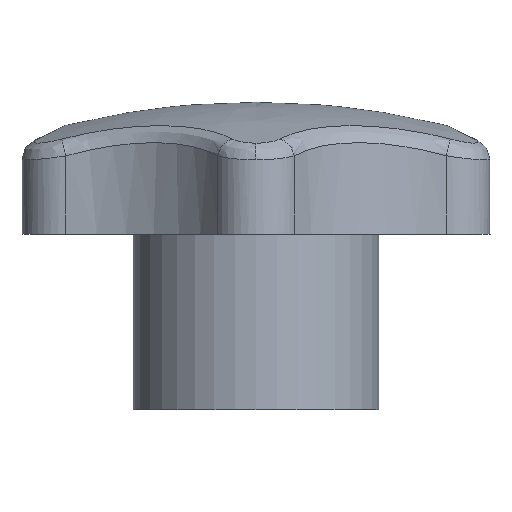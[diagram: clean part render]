
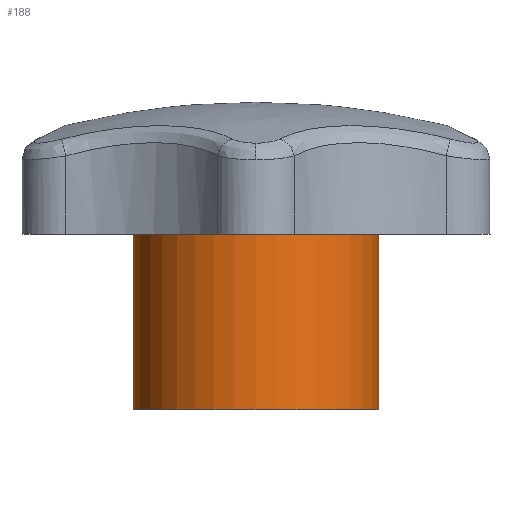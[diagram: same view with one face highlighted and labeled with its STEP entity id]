
A CAD part, left-side view. The second image highlights one B-rep face of the part: STEP entity #188.
In plain terms, the highlighted cylindrical face has radius 14 mm (diameter 28 mm), a full revolution.
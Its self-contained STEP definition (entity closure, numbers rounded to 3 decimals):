
#152=CARTESIAN_POINT('',(-14.,0.,20.));
#153=VERTEX_POINT('',#152);
#154=CARTESIAN_POINT('',(0.,0.,20.));
#155=DIRECTION('',(-1.,0.,0.));
#156=DIRECTION('',(0.,0.,1.));
#157=AXIS2_PLACEMENT_3D('',#154,#156,#155);
#158=CIRCLE('',#157,14.);
#159=EDGE_CURVE('',#153,#153,#158,.T.);
#164=CARTESIAN_POINT('',(0.,0.,20.));
#165=DIRECTION('',(-1.,0.,0.));
#166=DIRECTION('',(0.,0.,-1.));
#167=AXIS2_PLACEMENT_3D('',#164,#166,#165);
#168=CYLINDRICAL_SURFACE('',#167,14.);
#169=CARTESIAN_POINT('',(-14.,0.,0.));
#170=VERTEX_POINT('',#169);
#171=CARTESIAN_POINT('',(-14.,0.,20.));
#172=DIRECTION('',(0.,0.,-1.));
#173=VECTOR('',#172,20.);
#174=LINE('',#171,#173);
#175=EDGE_CURVE('',#153,#170,#174,.T.);
#176=ORIENTED_EDGE('E55',*,*,#175,.T.);
#177=CARTESIAN_POINT('',(0.,0.,0.));
#178=DIRECTION('',(-1.,0.,0.));
#179=DIRECTION('',(0.,0.,1.));
#180=AXIS2_PLACEMENT_3D('',#177,#179,#178);
#181=CIRCLE('',#180,14.);
#182=EDGE_CURVE('',#170,#170,#181,.T.);
#183=ORIENTED_EDGE('E57',*,*,#182,.T.);
#184=ORIENTED_EDGE('E57',*,*,#175,.F.);
#185=ORIENTED_EDGE('E57',*,*,#159,.F.);
#186=EDGE_LOOP('',(#176,#183,#184,#185));
#187=FACE_OUTER_BOUND('',#186,.T.);
#188=ADVANCED_FACE('F50',(#187),#168,.T.);
